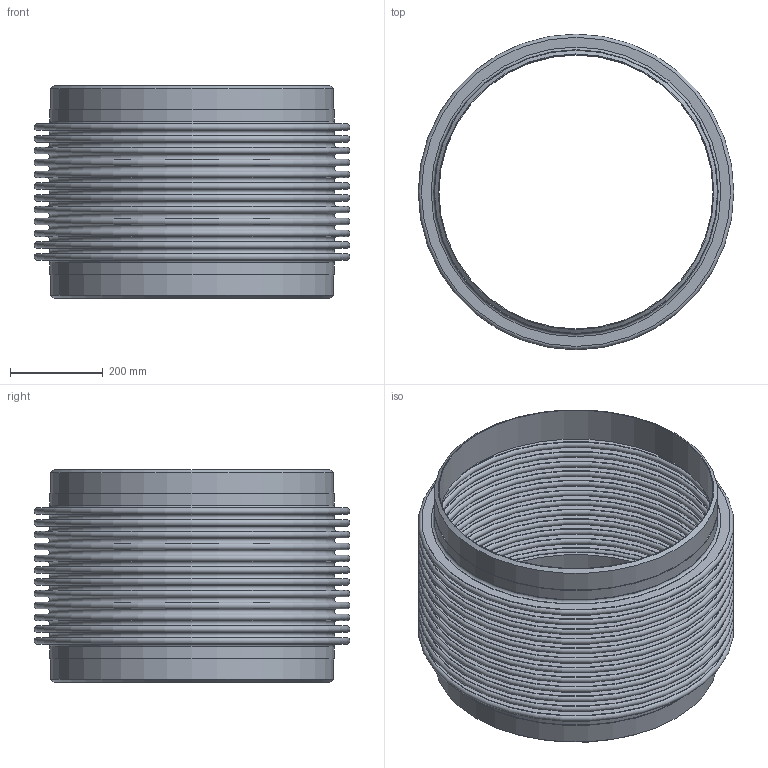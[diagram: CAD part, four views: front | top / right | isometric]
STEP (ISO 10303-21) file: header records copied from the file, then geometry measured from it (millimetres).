
FILE_DESCRIPTION(/* description */ ('EXPANSION JOINT,SINGLE, WELD ENDS,4 INCH NOMINAL'),/* implementation_level */ '2;1');
FILE_NAME(/* name */ 'ASSEMBLY US-24-12-85L.stp',/* time_stamp */ '2026-07-30T08:23:54-05:00',/* author */ ('jorgef'),/* organization */ (''),/* preprocessor_version */ 'ST-DEVELOPER v20.1',/* originating_system */ 'Autodesk Inventor 2026',/* authorisation */ '');
FILE_SCHEMA (('AUTOMOTIVE_DESIGN { 1 0 10303 214 3 1 1 }'));
Length unit declared in the file: inch
Products named in the file (3): ASSEMBLY  US-24-12-85L; STOCK BELLOW - US-24-12-85L; PIPE- US-24-12-85L
Assembly tree (3 placements, depth 2):
  ASSEMBLY  US-24-12-85L
    STOCK BELLOW - US-24-12-85L
    PIPE- US-24-12-85L  x2
Bounding box: 679.45 x 679.45 x 457.2 mm (x, y, z)
Volume: 5190139.9 mm3; surface area: 4820414.8 mm2
Topology: 5 solids, 5 shells, 118 faces, 180 edges, 121 vertices
Faces by surface type: plane 58, torus 50, cylinder 8, cone 2
Full cylindrical faces by diameter (mm): 590.55 x2, 609.6 x4, 612.038 x2
Entity records: 2769 total; most frequent: DIRECTION 573, CARTESIAN_POINT 405, ORIENTED_EDGE 342, AXIS2_PLACEMENT_3D 283, EDGE_CURVE 171, EDGE_LOOP 169, CIRCLE 164, VERTEX_POINT 114
